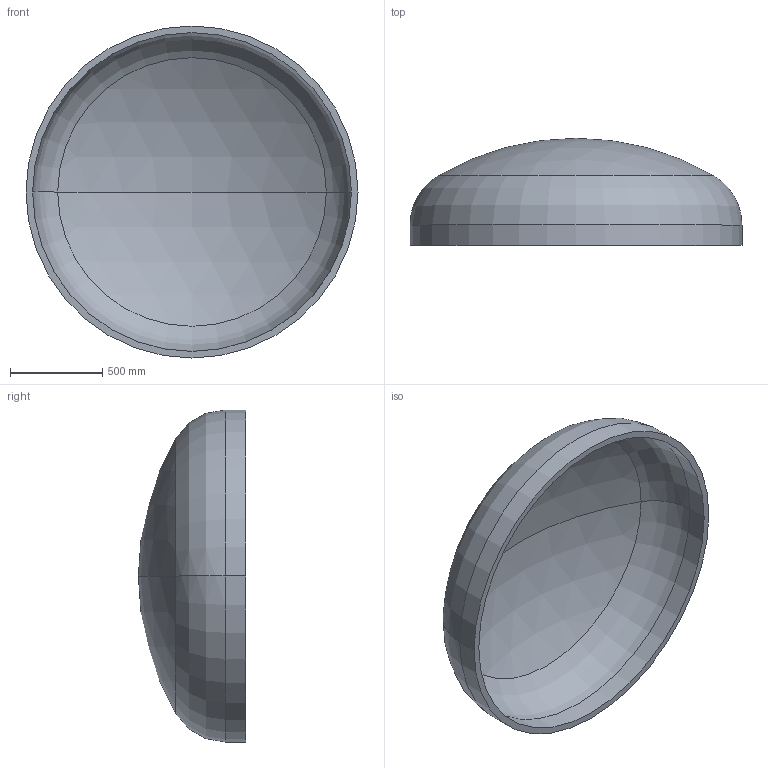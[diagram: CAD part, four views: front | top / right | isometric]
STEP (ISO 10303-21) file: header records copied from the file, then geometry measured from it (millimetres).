
FILE_DESCRIPTION (( 'STEP AP203' ), '1' );
FILE_NAME ('DIN 28013 Korbbogenform_-_Boden DIN 28013 - 1800 x 110 - I - s=36.step', '2016-07-01T12:28:04', ( '' ), ( '' ), 'SwSTEP 2.0', 'SolidWorks 2013', '' );
FILE_SCHEMA (( 'CONFIG_CONTROL_DESIGN' ));
Length unit declared in the file: millimetre
Products named in the file (1): DIN 28013 Korbbogenform_-_Boden DIN 28013 - 1800 x 110 - I - s=36
Bounding box: 1800 x 580.86 x 1800 mm (x, y, z)
Volume: 145330527.4 mm3; surface area: 8276133.6 mm2
Topology: 1 solids, 1 shells, 13 faces, 24 edges, 14 vertices
Faces by surface type: torus 4, cylinder 4, sphere 4, plane 1
Entity records: 407 total; most frequent: DIRECTION 72, CARTESIAN_POINT 52, ORIENTED_EDGE 48, AXIS2_PLACEMENT_3D 34, EDGE_CURVE 24, CIRCLE 20, VERTEX_POINT 14, EDGE_LOOP 14
